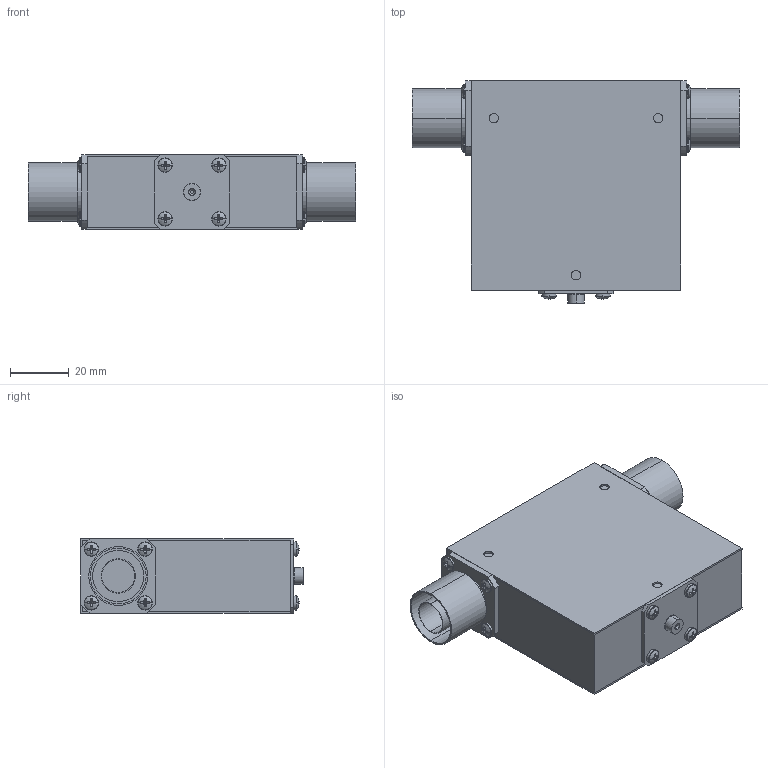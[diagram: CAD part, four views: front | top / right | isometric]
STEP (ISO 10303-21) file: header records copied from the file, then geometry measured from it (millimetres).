
FILE_DESCRIPTION (( 'STEP AP214' ), '1' );
FILE_NAME ('Package 20 Iso MM Type-N.step', '2021-12-01T20:59:53', ( '' ), ( '' ), 'SwSTEP 2.0', 'SolidWorks 2016', '' );
FILE_SCHEMA (( 'AUTOMOTIVE_DESIGN' ));
Length unit declared in the file: inch
Products named in the file (6): 1 inch; Package Size 20; Delta Type N Male, 1.0in flange; Package 20 Iso MM Type-N; Package 20; pan cross head_ai_CR-PHMS 0.099-56x0.125x0.125-N
Assembly tree (17 placements, depth 2):
  Package 20 Iso MM Type-N
    Package Size 20
    Package 20
    pan cross head_ai_CR-PHMS 0.099-56x0.125x0.125-N  x12
    1 inch
    Delta Type N Male, 1.0in flange  x2
Bounding box: 111.25 x 75.56 x 25.4 mm (x, y, z)
Volume: 134208.4 mm3; surface area: 52982.3 mm2
Topology: 19 solids, 19 shells, 402 faces, 908 edges, 564 vertices
Faces by surface type: plane 226, cylinder 122, torus 26, sphere 24, cone 4
Entity records: 3881 total; most frequent: DIRECTION 696, CARTESIAN_POINT 598, ORIENTED_EDGE 560, EDGE_CURVE 280, AXIS2_PLACEMENT_3D 280, VERTEX_POINT 182, EDGE_LOOP 154, CIRCLE 144
